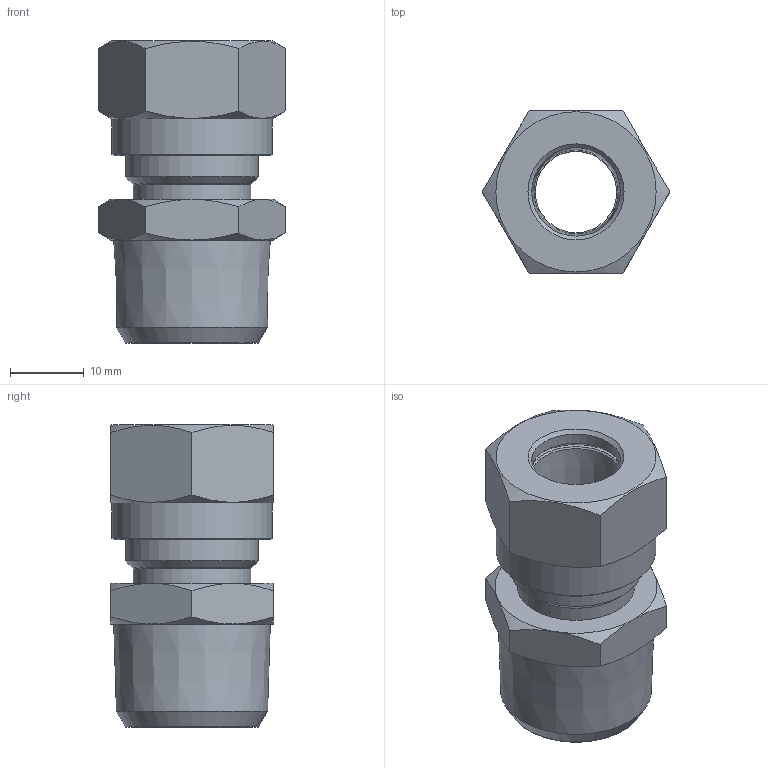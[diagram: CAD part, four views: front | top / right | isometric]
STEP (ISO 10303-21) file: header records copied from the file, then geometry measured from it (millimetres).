
FILE_DESCRIPTION(('Bauteilbeschreibung','HiCAD-Model','HiCAD-STEP-TRANSLATION','Bauteilbeschreibung'),'2;1');
FILE_NAME('B:/ABGLEICH/ZEICHNUNGEN/STEP FÜR INTERNET/STEP/201/94811_201_12_1-2.STP','2011-11-10T14:35:10+00:00',('Konstrukteur'),('Konstrukteur Firma GmbH'),' HiCAD neXt 2008, Step 3.1.1401.2J ','HiCAD neXt 2008','confidential');
FILE_SCHEMA(('AUTOMOTIVE_DESIGN { 1 2 10303 214 0 1 1 1 }'));
Length unit declared in the file: millimetre
Products named in the file (9): A4811_201_12_1_2; A4811; A48110; R 1_2_14; DIN 13_M18X1_5; A6805; A68050; DIN0130M18X105; A7405_EINBAU
Assembly tree (8 placements, depth 3):
  A4811_201_12_1_2
    A4811
    A48110
      R 1_2_14
      DIN 13_M18X1_5
    A6805
    A68050
      DIN0130M18X105
    A7405_EINBAU
Bounding box: 25.4 x 22 x 41 mm (x, y, z)
Volume: 8866.2 mm3; surface area: 10959.1 mm2
Topology: 6 solids, 6 shells, 78 faces, 166 edges, 100 vertices
Faces by surface type: cone 40, plane 24, cylinder 13, torus 1
Full cylindrical faces by diameter (mm): 11 x1, 12 x2, 15 x1, 15.9 x1, 16.16 x4, 18 x3, 21.7 x1
Entity records: 2546 total; most frequent: CARTESIAN_POINT 366, DIRECTION 328, ORIENTED_EDGE 224, AXIS2_PLACEMENT_3D 158, EDGE_LOOP 132, COLOUR_RGB 118, PRESENTATION_STYLE_ASSIGNMENT 118, CURVE_STYLE 112
